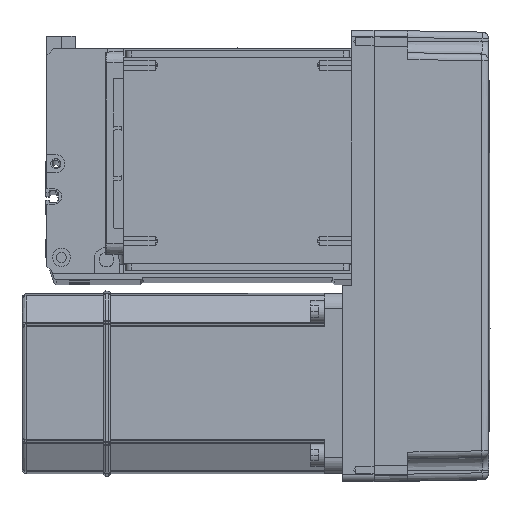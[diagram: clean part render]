
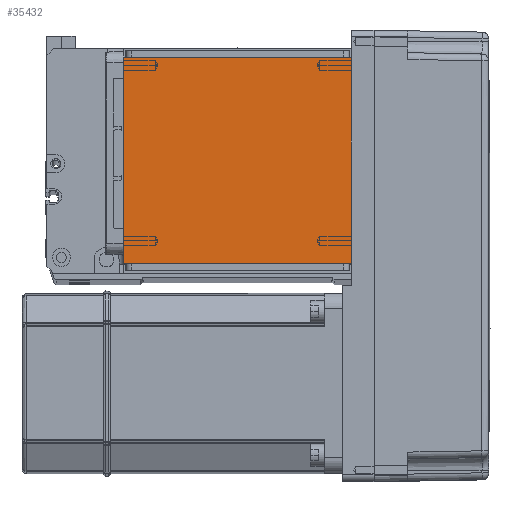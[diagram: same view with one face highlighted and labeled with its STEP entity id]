
A CAD part, top view. The second image highlights one B-rep face of the part: STEP entity #35432.
In plain terms, the highlighted planar face has unit normal (0, 0, 1).
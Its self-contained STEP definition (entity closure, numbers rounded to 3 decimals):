
#321 = DIRECTION ( 'NONE',  ( 0., 0., 1. ) ) ;
#4570 = ORIENTED_EDGE ( 'NONE', *, *, #12002, .F. ) ;
#4631 = DIRECTION ( 'NONE',  ( 0., -1., 0. ) ) ;
#4875 = EDGE_CURVE ( 'NONE', #42013, #45877, #50264, .T. ) ;
#5060 = VERTEX_POINT ( 'NONE', #24814 ) ;
#6855 = LINE ( 'NONE', #30762, #19677 ) ;
#12002 = EDGE_CURVE ( 'NONE', #42013, #5060, #19002, .T. ) ;
#14372 = PLANE ( 'NONE',  #28647 ) ;
#17571 = CARTESIAN_POINT ( 'NONE',  ( 50.5, 20., 115. ) ) ;
#19002 = LINE ( 'NONE', #19368, #35258 ) ;
#19368 = CARTESIAN_POINT ( 'NONE',  ( -70.004, 111.5, 115. ) ) ;
#19374 = EDGE_CURVE ( 'NONE', #50693, #5060, #30216, .T. ) ;
#19677 = VECTOR ( 'NONE', #53646, 1000. ) ;
#24814 = CARTESIAN_POINT ( 'NONE',  ( 50.5, 111.5, 115. ) ) ;
#27410 = VECTOR ( 'NONE', #38561, 1000. ) ;
#28056 = DIRECTION ( 'NONE',  ( 1., 0., 0. ) ) ;
#28647 = AXIS2_PLACEMENT_3D ( 'NONE', #54703, #321, #28056 ) ;
#29687 = CARTESIAN_POINT ( 'NONE',  ( -50.5, 20., 115. ) ) ;
#30216 = LINE ( 'NONE', #34166, #27410 ) ;
#30762 = CARTESIAN_POINT ( 'NONE',  ( -70.004, 20., 115. ) ) ;
#31056 = ORIENTED_EDGE ( 'NONE', *, *, #4875, .T. ) ;
#33805 = ORIENTED_EDGE ( 'NONE', *, *, #19374, .T. ) ;
#34166 = CARTESIAN_POINT ( 'NONE',  ( 50.5, 122., 115. ) ) ;
#35258 = VECTOR ( 'NONE', #56047, 1000. ) ;
#35432 = ADVANCED_FACE ( 'NONE', ( #52628 ), #14372, .T. ) ;
#37334 = ORIENTED_EDGE ( 'NONE', *, *, #56403, .F. ) ;
#38250 = VECTOR ( 'NONE', #4631, 1000. ) ;
#38561 = DIRECTION ( 'NONE',  ( 0., 1., 0. ) ) ;
#42013 = VERTEX_POINT ( 'NONE', #47723 ) ;
#45877 = VERTEX_POINT ( 'NONE', #29687 ) ;
#47723 = CARTESIAN_POINT ( 'NONE',  ( -50.5, 111.5, 115. ) ) ;
#49409 = CARTESIAN_POINT ( 'NONE',  ( -50.5, 122., 115. ) ) ;
#50264 = LINE ( 'NONE', #49409, #38250 ) ;
#50693 = VERTEX_POINT ( 'NONE', #17571 ) ;
#52628 = FACE_OUTER_BOUND ( 'NONE', #55060, .T. ) ;
#53646 = DIRECTION ( 'NONE',  ( -1., 0., 0. ) ) ;
#54703 = CARTESIAN_POINT ( 'NONE',  ( 0., 0., 115. ) ) ;
#55060 = EDGE_LOOP ( 'NONE', ( #4570, #31056, #37334, #33805 ) ) ;
#56047 = DIRECTION ( 'NONE',  ( 1., 0., 0. ) ) ;
#56403 = EDGE_CURVE ( 'NONE', #50693, #45877, #6855, .T. ) ;
